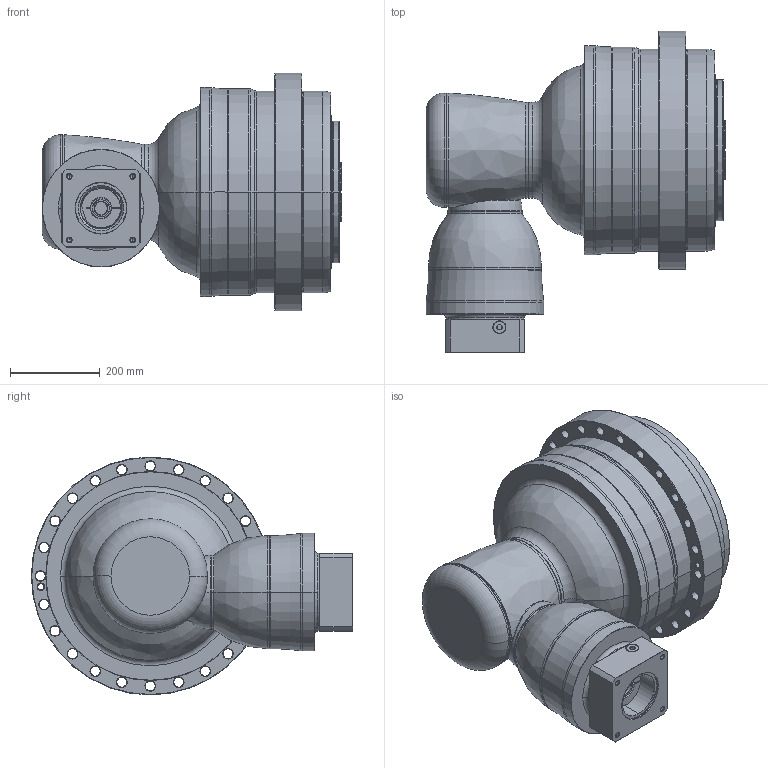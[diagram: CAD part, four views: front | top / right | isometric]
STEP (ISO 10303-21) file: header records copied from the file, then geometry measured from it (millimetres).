
FILE_DESCRIPTION((''),'2;1');
FILE_NAME('APCK450_4ST_38-P0409910201_ASM','2018-05-17T',('d01226'),(''),'PRO/ENGINEER BY PARAMETRIC TECHNOLOGY CORPORATION, 2008410','PRO/ENGINEER BY PARAMETRIC TECHNOLOGY CORPORATION, 2008410','');
FILE_SCHEMA(('CONFIG_CONTROL_DESIGN'));
Length unit declared in the file: millimetre
Products named in the file (13): P1008700002; P1315700001; P1007701001; P1317701201; P0409910201; P0503900012; P0912652001; 21711422019; P1821200001; P0276201003; P03572B0103; P1222200001; APCK450_4ST_38-P0409910201_ASM
Assembly tree (12 placements, depth 2):
  APCK450_4ST_38-P0409910201_ASM
    P1008700002
    P1315700001
    P1007701001
    P1317701201
    P0409910201
    P0503900012
    P0912652001
    21711422019
    P1821200001
    P0276201003
    P03572B0103
    P1222200001
Bounding box: 667.6 x 716 x 530 mm (x, y, z)
Volume: 90894064.9 mm3; surface area: 3148135.3 mm2
Topology: 13 solids, 25 shells, 844 faces, 2038 edges, 1251 vertices
Faces by surface type: cone 268, cylinder 230, plane 163, torus 155, bspline 26, sphere 2
Entity records: 33982 total; most frequent: CARTESIAN_POINT 13799, DIRECTION 4504, ORIENTED_EDGE 3998, EDGE_CURVE 2024, AXIS2_PLACEMENT_3D 2001, VERTEX_POINT 1251, CIRCLE 1146, EDGE_LOOP 957
